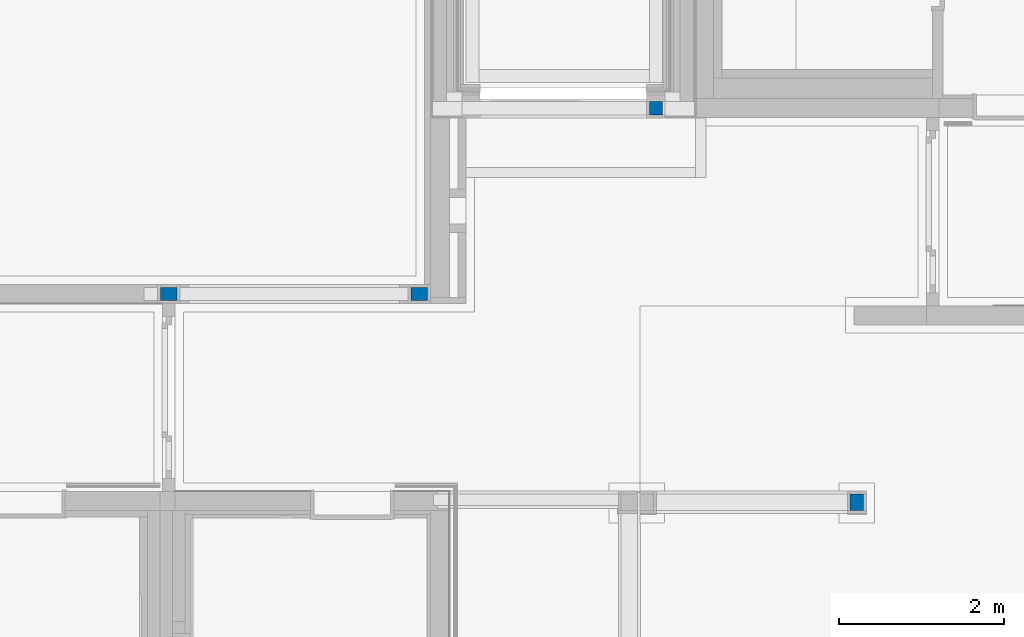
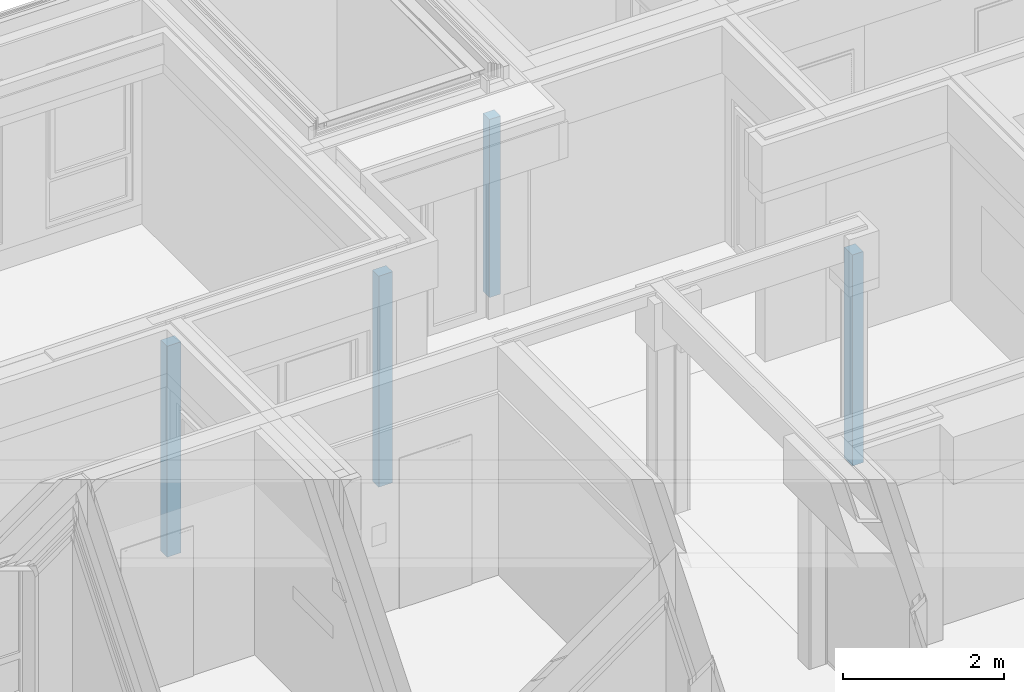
# One storey, part 4 of 207: 4 columns.
"""IFC4 building model written with IfcOpenShell, lengths in metres."""

from ifc_helpers import new_model, entity, si_unit, converted_unit, derived_unit, frame, frame_2d, origin, origin_with_axes, place, context, subcontext, project, spatial, rectangle, extrude, material, element, save


model = new_model("IFC4")

# Units and contexts
model_context = context("Model", 3, precision=1e-05, world=origin())
body_context = subcontext(model_context, "Body", "Model", "MODEL_VIEW")
ifc_project = project(units=[si_unit("LENGTHUNIT", "METRE"), si_unit("AREAUNIT", "SQUARE_METRE"), si_unit("VOLUMEUNIT", "CUBIC_METRE"), si_unit("MASSUNIT", "GRAM", prefix="KILO"), converted_unit("PLANEANGLEUNIT", "DEGREE", entity("IfcPlaneAngleMeasure", 0.0174532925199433), si_unit("PLANEANGLEUNIT", "RADIAN"), dimensions=[0, 0, 0, 0, 0, 0, 0]), derived_unit("THERMALTRANSMITTANCEUNIT", [(si_unit("POWERUNIT", "WATT"), 1), (si_unit("THERMODYNAMICTEMPERATUREUNIT", "KELVIN"), -1), (si_unit("LENGTHUNIT", "METRE"), -2)]), derived_unit("VOLUMETRICFLOWRATEUNIT", [(si_unit("LENGTHUNIT", "METRE"), 3), (converted_unit("TIMEUNIT", "hour", entity("IfcTimeMeasure", 3600.0), si_unit("TIMEUNIT", "SECOND"), dimensions=[0, 0, 1, 0, 0, 0, 0]), -1), (si_unit("LENGTHUNIT", "METRE"), -1)])], contexts=[model_context])

# Site, building, storey
site_placement = place(None, origin())
site = spatial("IfcSite", under=ifc_project, at=site_placement, Name="Psychiatrie Neubau Wunstorf", CompositionType="ELEMENT")
building_placement = place(site_placement, origin())
building = spatial("IfcBuilding", under=site, at=building_placement, Name="Neubau H2 Stationsgebäude", CompositionType="ELEMENT")
storey_placement = place(building_placement, frame((0.0, 0.0, -0.2)))
storey = spatial("IfcBuildingStorey", under=building, at=storey_placement, Name="H2 Ebene 0", CompositionType="ELEMENT", Elevation=-0.2)

# Columns
ifc_material_1 = material(Name="H")
column_1_placement = place(storey_placement, frame((70.5400000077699, 25.15, 0.5)))
element("IfcColumn", 1, at=column_1_placement, inside=storey, material=ifc_material_1, PredefinedType="COLUMN", context=body_context, shape_type="SweptSolid", body=[
    extrude(rectangle(XDim=0.16, YDim=0.16, at=frame_2d((0.08, 0.08), x_axis=(1.0, 0.0))), origin_with_axes(), (0.0, 0.0, 1.0), 2.7),
])
ifc_material_2 = material(Name="H-ST")
column_2_placement = place(storey_placement, frame((72.9759970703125, 20.3560014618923, 0.0)))
element("IfcColumn", 2, at=column_2_placement, inside=storey, material=ifc_material_2, PredefinedType="COLUMN", context=body_context, shape_type="SweptSolid", body=[
    extrude(rectangle(XDim=0.16, YDim=0.2, at=frame_2d((0.08, 0.1), x_axis=(1.0, 0.0))), origin_with_axes(), (0.0, 0.0, 1.0), 3.2),
])
ifc_material_3 = material(Name="H-ST")
column_3_placement = place(storey_placement, frame((67.653, 22.899997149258, 0.0)))
element("IfcColumn", 3, at=column_3_placement, inside=storey, material=ifc_material_3, PredefinedType="COLUMN", context=body_context, shape_type="SweptSolid", body=[
    extrude(rectangle(XDim=0.2, YDim=0.16, at=frame_2d((0.1, 0.08), x_axis=(1.0, 0.0))), origin_with_axes(), (0.0, 0.0, 1.0), 3.2),
])
ifc_material_4 = material(Name="H-ST")
column_4_placement = place(storey_placement, frame((64.616, 22.9000003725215, 0.0)))
element("IfcColumn", 4, at=column_4_placement, inside=storey, material=ifc_material_4, PredefinedType="COLUMN", context=body_context, shape_type="SweptSolid", body=[
    extrude(rectangle(XDim=0.2, YDim=0.16, at=frame_2d((0.1, 0.08), x_axis=(1.0, 0.0))), origin_with_axes(), (0.0, 0.0, 1.0), 3.2),
])

save(model, "model.ifc")
